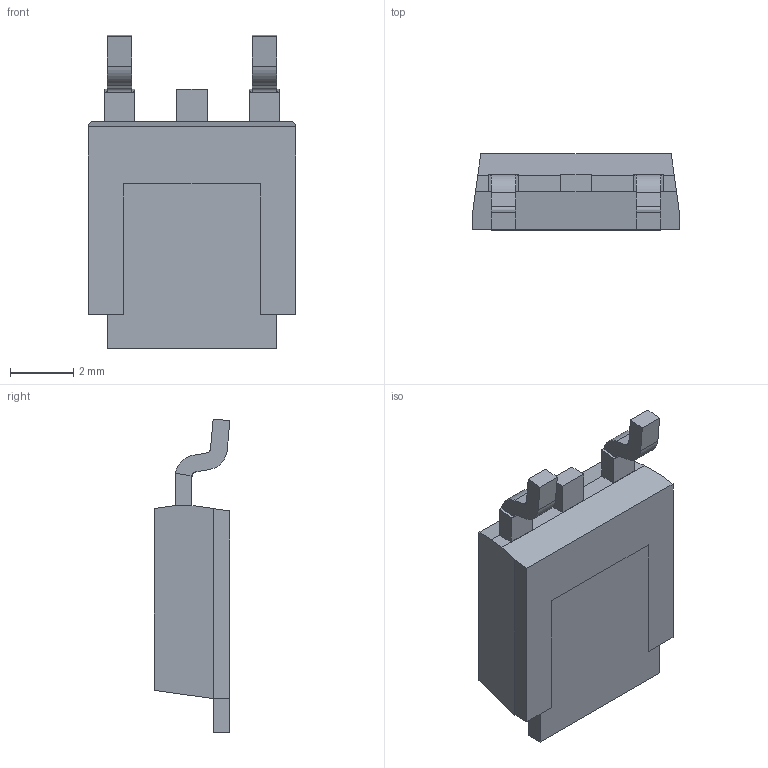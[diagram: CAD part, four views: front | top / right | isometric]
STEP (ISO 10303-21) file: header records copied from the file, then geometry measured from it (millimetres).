
FILE_DESCRIPTION (( 'STEP AP214' ), '1' );
FILE_NAME ('369AS.STEP', '2024-04-16T15:40:35', ( 'LENOVO' ), ( '' ), 'SwSTEP 2.0', 'SolidWorks 2021', '' );
FILE_SCHEMA (( 'AUTOMOTIVE_DESIGN' ));
Length unit declared in the file: millimetre
Products named in the file (1): 369AS
Bounding box: 6.54 x 2.39 x 9.91 mm (x, y, z)
Volume: 96.5 mm3; surface area: 219.4 mm2
Topology: 5 solids, 5 shells, 68 faces, 170 edges, 112 vertices
Faces by surface type: plane 60, cylinder 8
Entity records: 2076 total; most frequent: CARTESIAN_POINT 351, ORIENTED_EDGE 340, DIRECTION 332, EDGE_CURVE 170, LINE 146, VECTOR 146, VERTEX_POINT 112, AXIS2_PLACEMENT_3D 93
